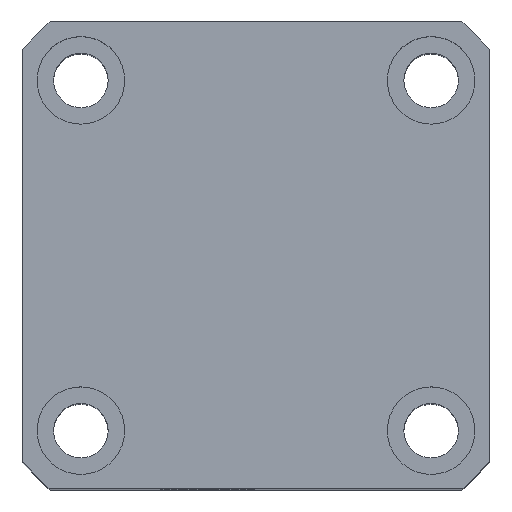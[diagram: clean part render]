
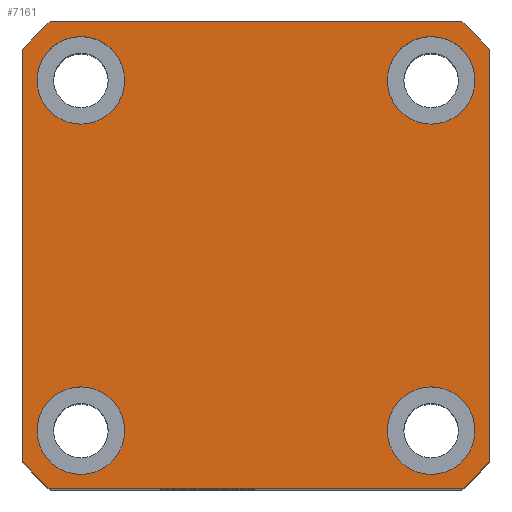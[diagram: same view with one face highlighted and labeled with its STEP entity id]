
A CAD part, top view. The second image highlights one B-rep face of the part: STEP entity #7161.
In plain terms, the highlighted planar face has unit normal (0, 0, 1) as drawn and (1, 0, 0) by its records, which use the part's own axes.
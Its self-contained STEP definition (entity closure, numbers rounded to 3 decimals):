
#25 = PLANE ( 'NONE',  #3972 ) ;
#114 = EDGE_LOOP ( 'NONE', ( #462, #3170 ) ) ;
#462 = ORIENTED_EDGE ( 'NONE', *, *, #814, .F. ) ;
#483 = DIRECTION ( 'NONE',  ( 1., 0., 0. ) ) ;
#490 = VERTEX_POINT ( 'NONE', #3773 ) ;
#499 = LINE ( 'NONE', #5792, #4851 ) ;
#505 = CARTESIAN_POINT ( 'NONE',  ( 60., -21.166, 24. ) ) ;
#512 = CARTESIAN_POINT ( 'NONE',  ( 60., -24., 21.166 ) ) ;
#678 = LINE ( 'NONE', #6530, #7019 ) ;
#814 = EDGE_CURVE ( 'NONE', #490, #1474, #1344, .T. ) ;
#843 = CARTESIAN_POINT ( 'NONE',  ( 60., 0., 0. ) ) ;
#849 = CIRCLE ( 'NONE', #5673, 4.5 ) ;
#850 = FACE_BOUND ( 'NONE', #2513, .T. ) ;
#853 = EDGE_LOOP ( 'NONE', ( #7953, #2851 ) ) ;
#887 = DIRECTION ( 'NONE',  ( 0., 1., 0. ) ) ;
#932 = LINE ( 'NONE', #5566, #2875 ) ;
#945 = DIRECTION ( 'NONE',  ( 1., 0., 0. ) ) ;
#984 = CIRCLE ( 'NONE', #4790, 32. ) ;
#1025 = CARTESIAN_POINT ( 'NONE',  ( 60., 18., -18. ) ) ;
#1059 = DIRECTION ( 'NONE',  ( 0., 0., -1. ) ) ;
#1068 = DIRECTION ( 'NONE',  ( 1., 0., 0. ) ) ;
#1121 = VERTEX_POINT ( 'NONE', #4889 ) ;
#1141 = CARTESIAN_POINT ( 'NONE',  ( 60., 24., -21.166 ) ) ;
#1177 = CARTESIAN_POINT ( 'NONE',  ( 60., -18., 18. ) ) ;
#1238 = VERTEX_POINT ( 'NONE', #512 ) ;
#1344 = CIRCLE ( 'NONE', #10108, 4.5 ) ;
#1474 = VERTEX_POINT ( 'NONE', #6144 ) ;
#1487 = CIRCLE ( 'NONE', #8819, 32. ) ;
#1530 = DIRECTION ( 'NONE',  ( 1., 0., 0. ) ) ;
#1581 = AXIS2_PLACEMENT_3D ( 'NONE', #5325, #5314, #5287 ) ;
#1643 = CARTESIAN_POINT ( 'NONE',  ( 60., -24., -21.166 ) ) ;
#1666 = VERTEX_POINT ( 'NONE', #1141 ) ;
#1696 = DIRECTION ( 'NONE',  ( 1., 0., 0. ) ) ;
#1816 = CIRCLE ( 'NONE', #1942, 32. ) ;
#1831 = DIRECTION ( 'NONE',  ( 0., 0., -1. ) ) ;
#1894 = VERTEX_POINT ( 'NONE', #2256 ) ;
#1933 = CARTESIAN_POINT ( 'NONE',  ( 60., 0., 0. ) ) ;
#1942 = AXIS2_PLACEMENT_3D ( 'NONE', #1933, #7721, #2771 ) ;
#2028 = AXIS2_PLACEMENT_3D ( 'NONE', #8702, #3750, #9548 ) ;
#2217 = DIRECTION ( 'NONE',  ( 1., 0., 0. ) ) ;
#2233 = DIRECTION ( 'NONE',  ( 1., 0., 0. ) ) ;
#2256 = CARTESIAN_POINT ( 'NONE',  ( 60., -18., -22.5 ) ) ;
#2274 = ORIENTED_EDGE ( 'NONE', *, *, #3317, .T. ) ;
#2377 = VERTEX_POINT ( 'NONE', #5771 ) ;
#2460 = EDGE_CURVE ( 'NONE', #1474, #490, #5318, .T. ) ;
#2513 = EDGE_LOOP ( 'NONE', ( #7439, #10329 ) ) ;
#2515 = VERTEX_POINT ( 'NONE', #6191 ) ;
#2533 = EDGE_CURVE ( 'NONE', #1238, #2827, #678, .T. ) ;
#2624 = ORIENTED_EDGE ( 'NONE', *, *, #9003, .T. ) ;
#2636 = ORIENTED_EDGE ( 'NONE', *, *, #3058, .T. ) ;
#2771 = DIRECTION ( 'NONE',  ( 0., 0., -1. ) ) ;
#2827 = VERTEX_POINT ( 'NONE', #1643 ) ;
#2851 = ORIENTED_EDGE ( 'NONE', *, *, #8093, .F. ) ;
#2875 = VECTOR ( 'NONE', #5541, 1000. ) ;
#2943 = FACE_OUTER_BOUND ( 'NONE', #7600, .T. ) ;
#3051 = VECTOR ( 'NONE', #4090, 1000. ) ;
#3058 = EDGE_CURVE ( 'NONE', #2827, #2515, #5561, .T. ) ;
#3074 = EDGE_CURVE ( 'NONE', #1666, #1121, #932, .T. ) ;
#3160 = VERTEX_POINT ( 'NONE', #4854 ) ;
#3170 = ORIENTED_EDGE ( 'NONE', *, *, #2460, .F. ) ;
#3261 = CARTESIAN_POINT ( 'NONE',  ( 60., 18., -22.5 ) ) ;
#3317 = EDGE_CURVE ( 'NONE', #7049, #1666, #1816, .T. ) ;
#3436 = ORIENTED_EDGE ( 'NONE', *, *, #9566, .F. ) ;
#3529 = ORIENTED_EDGE ( 'NONE', *, *, #3074, .T. ) ;
#3750 = DIRECTION ( 'NONE',  ( 1., 0., 0. ) ) ;
#3773 = CARTESIAN_POINT ( 'NONE',  ( 60., -18., 13.5 ) ) ;
#3783 = DIRECTION ( 'NONE',  ( 1., 0., 0. ) ) ;
#3799 = CARTESIAN_POINT ( 'NONE',  ( 60., 21.166, -24. ) ) ;
#3831 = VERTEX_POINT ( 'NONE', #4417 ) ;
#3942 = CIRCLE ( 'NONE', #5495, 4.5 ) ;
#3972 = AXIS2_PLACEMENT_3D ( 'NONE', #843, #4120, #6590 ) ;
#4090 = DIRECTION ( 'NONE',  ( 0., -1., 0. ) ) ;
#4120 = DIRECTION ( 'NONE',  ( 1., 0., 0. ) ) ;
#4199 = VERTEX_POINT ( 'NONE', #3261 ) ;
#4255 = DIRECTION ( 'NONE',  ( 0., 0., -1. ) ) ;
#4417 = CARTESIAN_POINT ( 'NONE',  ( 60., 18., -13.5 ) ) ;
#4582 = ORIENTED_EDGE ( 'NONE', *, *, #6413, .T. ) ;
#4589 = ORIENTED_EDGE ( 'NONE', *, *, #9158, .F. ) ;
#4790 = AXIS2_PLACEMENT_3D ( 'NONE', #6461, #1530, #7321 ) ;
#4851 = VECTOR ( 'NONE', #887, 1000. ) ;
#4854 = CARTESIAN_POINT ( 'NONE',  ( 60., -18., -13.5 ) ) ;
#4889 = CARTESIAN_POINT ( 'NONE',  ( 60., 24., 21.166 ) ) ;
#5218 = LINE ( 'NONE', #8199, #3051 ) ;
#5287 = DIRECTION ( 'NONE',  ( 0., 0., -1. ) ) ;
#5314 = DIRECTION ( 'NONE',  ( 1., 0., 0. ) ) ;
#5318 = CIRCLE ( 'NONE', #8095, 4.5 ) ;
#5325 = CARTESIAN_POINT ( 'NONE',  ( 60., 0., 0. ) ) ;
#5381 = CIRCLE ( 'NONE', #2028, 4.5 ) ;
#5400 = CARTESIAN_POINT ( 'NONE',  ( 60., 0., 0. ) ) ;
#5489 = FACE_BOUND ( 'NONE', #114, .T. ) ;
#5495 = AXIS2_PLACEMENT_3D ( 'NONE', #5859, #945, #6706 ) ;
#5541 = DIRECTION ( 'NONE',  ( 0., 0., 1. ) ) ;
#5561 = CIRCLE ( 'NONE', #1581, 32. ) ;
#5566 = CARTESIAN_POINT ( 'NONE',  ( 60., 24., 24. ) ) ;
#5568 = EDGE_CURVE ( 'NONE', #4199, #3831, #5381, .T. ) ;
#5673 = AXIS2_PLACEMENT_3D ( 'NONE', #7202, #2233, #8030 ) ;
#5768 = EDGE_CURVE ( 'NONE', #2515, #7049, #499, .T. ) ;
#5771 = CARTESIAN_POINT ( 'NONE',  ( 60., 18., 13.5 ) ) ;
#5792 = CARTESIAN_POINT ( 'NONE',  ( 60., 24., -24. ) ) ;
#5838 = VERTEX_POINT ( 'NONE', #7552 ) ;
#5859 = CARTESIAN_POINT ( 'NONE',  ( 60., 18., 18. ) ) ;
#5863 = ORIENTED_EDGE ( 'NONE', *, *, #2533, .T. ) ;
#5939 = CARTESIAN_POINT ( 'NONE',  ( 60., -18., 18. ) ) ;
#5982 = ORIENTED_EDGE ( 'NONE', *, *, #5768, .T. ) ;
#6144 = CARTESIAN_POINT ( 'NONE',  ( 60., -18., 22.5 ) ) ;
#6191 = CARTESIAN_POINT ( 'NONE',  ( 60., -21.166, -24. ) ) ;
#6218 = DIRECTION ( 'NONE',  ( 0., 0., -1. ) ) ;
#6413 = EDGE_CURVE ( 'NONE', #1121, #5838, #1487, .T. ) ;
#6458 = DIRECTION ( 'NONE',  ( 0., 0., -1. ) ) ;
#6461 = CARTESIAN_POINT ( 'NONE',  ( 60., 0., 0. ) ) ;
#6530 = CARTESIAN_POINT ( 'NONE',  ( 60., -24., 24. ) ) ;
#6590 = DIRECTION ( 'NONE',  ( 0., 0., -1. ) ) ;
#6647 = CARTESIAN_POINT ( 'NONE',  ( 60., -18., -18. ) ) ;
#6706 = DIRECTION ( 'NONE',  ( 0., 0., -1. ) ) ;
#6788 = DIRECTION ( 'NONE',  ( 1., 0., 0. ) ) ;
#7019 = VECTOR ( 'NONE', #6458, 1000. ) ;
#7049 = VERTEX_POINT ( 'NONE', #3799 ) ;
#7147 = EDGE_CURVE ( 'NONE', #5838, #7422, #5218, .T. ) ;
#7161 = ADVANCED_FACE ( 'NONE', ( #7697, #5489, #850, #7180, #2943 ), #25, .T. ) ;
#7180 = FACE_BOUND ( 'NONE', #853, .T. ) ;
#7181 = CARTESIAN_POINT ( 'NONE',  ( 60., 18., 18. ) ) ;
#7183 = EDGE_LOOP ( 'NONE', ( #3436, #4589 ) ) ;
#7202 = CARTESIAN_POINT ( 'NONE',  ( 60., -18., -18. ) ) ;
#7321 = DIRECTION ( 'NONE',  ( 0., 0., -1. ) ) ;
#7422 = VERTEX_POINT ( 'NONE', #505 ) ;
#7439 = ORIENTED_EDGE ( 'NONE', *, *, #5568, .F. ) ;
#7491 = DIRECTION ( 'NONE',  ( 0., 0., -1. ) ) ;
#7519 = CARTESIAN_POINT ( 'NONE',  ( 60., 18., 22.5 ) ) ;
#7552 = CARTESIAN_POINT ( 'NONE',  ( 60., 21.166, 24. ) ) ;
#7600 = EDGE_LOOP ( 'NONE', ( #5982, #2274, #3529, #4582, #8480, #2624, #5863, #2636 ) ) ;
#7697 = FACE_BOUND ( 'NONE', #7183, .T. ) ;
#7721 = DIRECTION ( 'NONE',  ( 1., 0., 0. ) ) ;
#7953 = ORIENTED_EDGE ( 'NONE', *, *, #9840, .F. ) ;
#8012 = DIRECTION ( 'NONE',  ( 0., 0., -1. ) ) ;
#8030 = DIRECTION ( 'NONE',  ( 0., 0., -1. ) ) ;
#8093 = EDGE_CURVE ( 'NONE', #9245, #2377, #10453, .T. ) ;
#8095 = AXIS2_PLACEMENT_3D ( 'NONE', #5939, #3783, #4255 ) ;
#8199 = CARTESIAN_POINT ( 'NONE',  ( 60., 24., 24. ) ) ;
#8264 = AXIS2_PLACEMENT_3D ( 'NONE', #1025, #6788, #1831 ) ;
#8480 = ORIENTED_EDGE ( 'NONE', *, *, #7147, .T. ) ;
#8702 = CARTESIAN_POINT ( 'NONE',  ( 60., 18., -18. ) ) ;
#8819 = AXIS2_PLACEMENT_3D ( 'NONE', #5400, #483, #6218 ) ;
#8993 = CIRCLE ( 'NONE', #9247, 4.5 ) ;
#9003 = EDGE_CURVE ( 'NONE', #7422, #1238, #984, .T. ) ;
#9158 = EDGE_CURVE ( 'NONE', #3160, #1894, #8993, .T. ) ;
#9245 = VERTEX_POINT ( 'NONE', #7519 ) ;
#9247 = AXIS2_PLACEMENT_3D ( 'NONE', #6647, #1696, #7491 ) ;
#9548 = DIRECTION ( 'NONE',  ( 0., 0., -1. ) ) ;
#9566 = EDGE_CURVE ( 'NONE', #1894, #3160, #849, .T. ) ;
#9840 = EDGE_CURVE ( 'NONE', #2377, #9245, #3942, .T. ) ;
#9900 = EDGE_CURVE ( 'NONE', #3831, #4199, #10032, .T. ) ;
#10032 = CIRCLE ( 'NONE', #8264, 4.5 ) ;
#10108 = AXIS2_PLACEMENT_3D ( 'NONE', #1177, #1068, #1059 ) ;
#10329 = ORIENTED_EDGE ( 'NONE', *, *, #9900, .F. ) ;
#10438 = AXIS2_PLACEMENT_3D ( 'NONE', #7181, #2217, #8012 ) ;
#10453 = CIRCLE ( 'NONE', #10438, 4.5 ) ;
